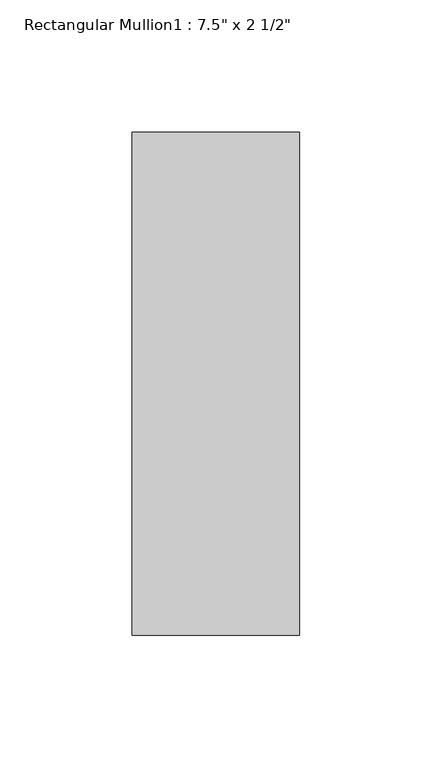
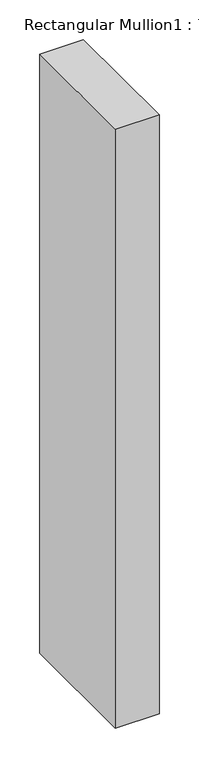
"""IFC4 building model written with IfcOpenShell, lengths in millimetres: member geometry."""

from ifc_helpers import new_model, si_unit, frame, origin, place, context, project, spatial, polyline, outline, extrude, source, transform, mapped, element, save


def member_3d08e339(model_context):
    return source(origin(), model_context, "Body", "SweptSolid", [
        extrude(outline(polyline([(-63.5, 165.1), (0.0, 165.1), (0.0, -25.4), (-63.5, -25.4), (-63.5, 165.1)])), frame((0.0, 0.0, -920.75), z_axis=(0.0, 0.0, 1.0), x_axis=(1.0, 0.0, 0.0)), (0.0, 0.0, 1.0), 920.75),
    ])


if __name__ == "__main__":
    model = new_model("IFC4")
    model_context = context("Model", 3, world=origin())
    ifc_project = project(units=[si_unit("LENGTHUNIT", "METRE", prefix="MILLI")], contexts=[model_context])
    site = spatial("IfcSite", under=ifc_project)
    building = spatial("IfcBuilding", under=site)
    placement = place(None, origin())
    member_shape = member_3d08e339(model_context)
    element("IfcMember", 1, ObjectType="Rectangular Mullion1 : 7.5\" x 2 1/2\"", at=placement, inside=building, context=model_context, shape_type="MappedRepresentation", body=[
        mapped(member_shape, transform((0.0, 0.0, 0.0), x_axis=(1.0, 0.0, 0.0), y_axis=(0.0, 1.0, 0.0), z_axis=(0.0, 0.0, 1.0))),
    ])
    save(model, "model.ifc")
